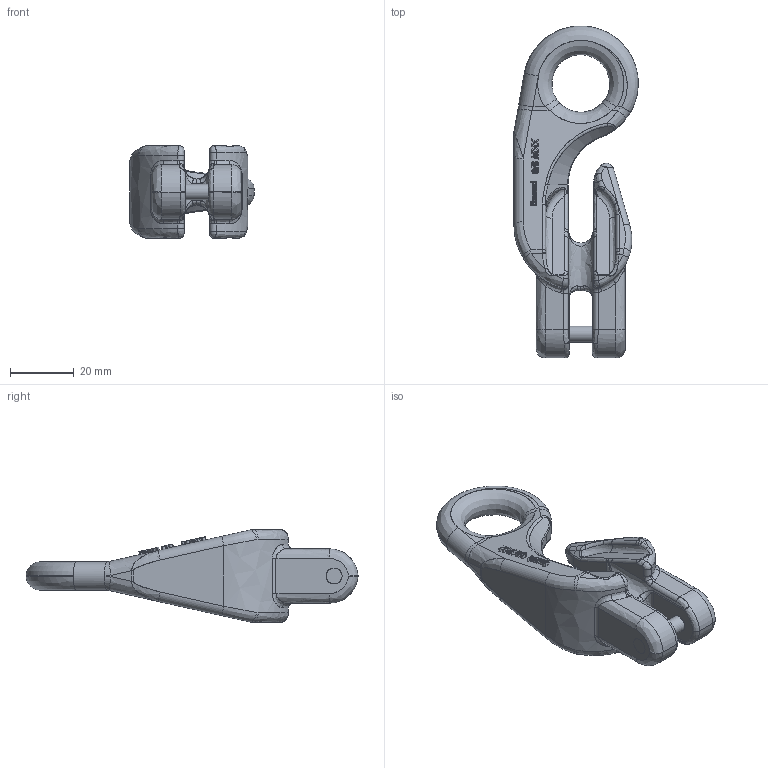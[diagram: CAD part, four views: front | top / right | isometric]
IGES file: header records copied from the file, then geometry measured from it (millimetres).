
Global section: file name: C:\Users\zer\Desktop\Plot\XKW 5-6 Kundenmodell.igs; native system: NX V9.0; preprocessor: SIEMENS PLM Software NX 9.0; date: 20160202.122936; units: millimetre
Bounding box: 38.99 x 104 x 29 mm (x, y, z)
Surface area: 11386.5 mm2 (no closed solid volume)
Topology: 0 solids, 0 shells, 496 faces, 2697 edges, 2687 vertices
Faces by surface type: bspline 496
